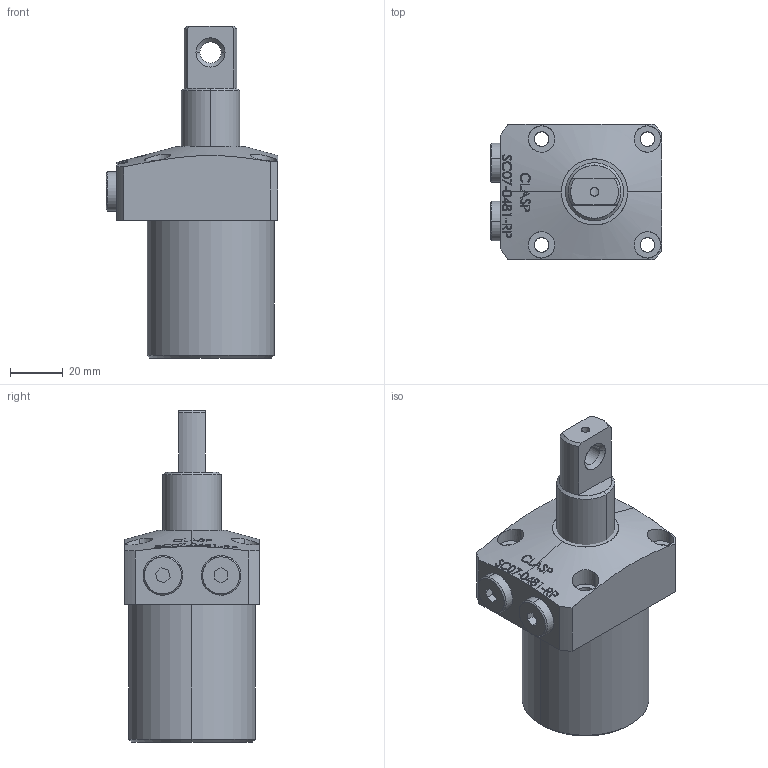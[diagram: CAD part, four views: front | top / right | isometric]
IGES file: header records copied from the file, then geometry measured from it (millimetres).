
Start section: SolidWorks IGES file using analytic representation for surfaces
Global section: file name: D:\karuppas\Clasp\3D model\SWING CYLINDER\Top Mounting swing cylinder-P type\SC07-0481-RP\SC07-0481-RP.IGS; native system: SolidWorks 2017; preprocessor: SolidWorks 2017; author: pc; date: 220708.222342; units: millimetre
Bounding box: 65 x 51 x 125.5 mm (x, y, z)
Surface area: 29647.1 mm2 (no closed solid volume)
Topology: 0 solids, 0 shells, 328 faces, 5648 edges, 5648 vertices
Faces by surface type: bspline 248, revolution 80
